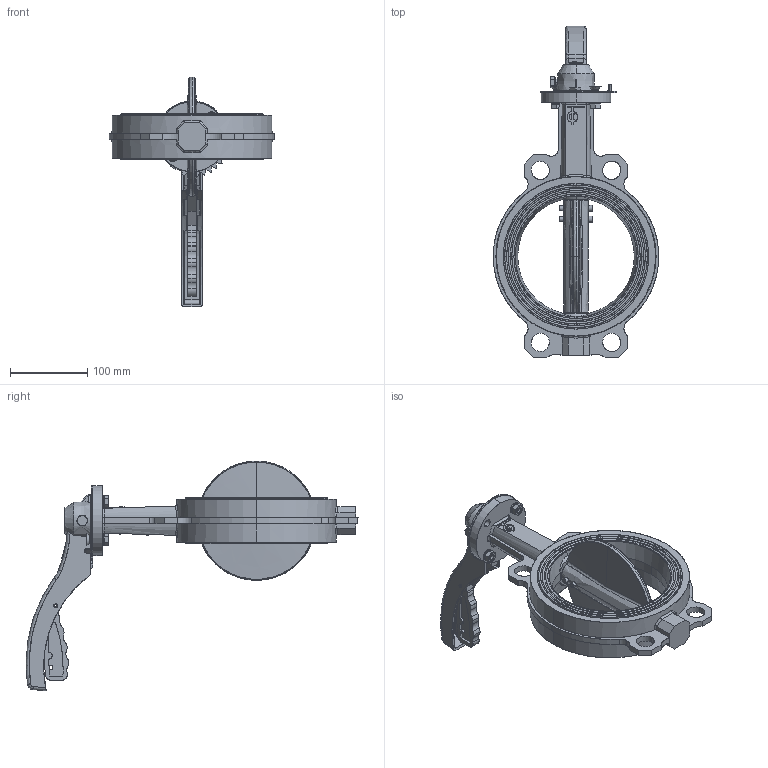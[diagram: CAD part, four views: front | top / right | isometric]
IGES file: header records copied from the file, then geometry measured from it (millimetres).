
Start section: SolidWorks IGES file using analytic representation for surfaces
Global section: file name: H:\BE BIBLIOTHEQUE 3D\BE SECTION 01 - ROBINETS A PAPILLON_VANNES PASSAGE DIRECTE\VP - Vanne Papillon\VPG\WAFER\DN150\VPG444X-02XX0150-Défaut.igs; native system: SolidWorks 2020; preprocessor: SolidWorks 2020; author: k.gigout; date: 220519.181912; units: millimetre
Bounding box: 213.98 x 428.91 x 297.08 mm (x, y, z)
Surface area: 288536.8 mm2 (no closed solid volume)
Topology: 0 solids, 0 shells, 672 faces, 18623 edges, 18619 vertices
Faces by surface type: bspline 434, revolution 238
